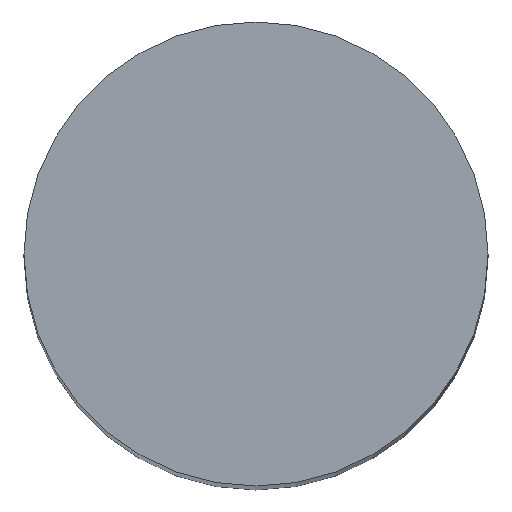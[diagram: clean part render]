
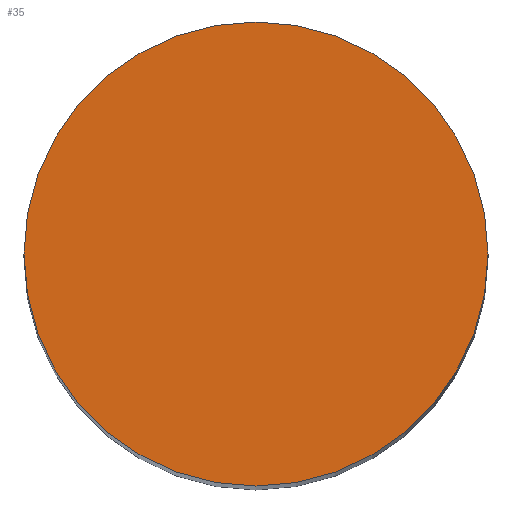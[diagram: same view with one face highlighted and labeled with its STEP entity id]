
A CAD part, top view. The second image highlights one B-rep face of the part: STEP entity #35.
In plain terms, the highlighted planar face has unit normal (0, 0, 1).
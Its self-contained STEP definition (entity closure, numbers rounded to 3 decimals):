
#13 = DIRECTION ( 'NONE',  ( 0., 0., 1. ) ) ;
#22 = FACE_OUTER_BOUND ( 'NONE', #99, .T. ) ;
#24 = DIRECTION ( 'NONE',  ( 1., 0., 0. ) ) ;
#35 = ADVANCED_FACE ( 'NONE', ( #22 ), #127, .T. ) ;
#56 = VERTEX_POINT ( 'NONE', #67 ) ;
#66 = DIRECTION ( 'NONE',  ( 1., 0., 0. ) ) ;
#67 = CARTESIAN_POINT ( 'NONE',  ( 30.25, 0., 148. ) ) ;
#68 = CARTESIAN_POINT ( 'NONE',  ( -30.25, 0., 148. ) ) ;
#75 = AXIS2_PLACEMENT_3D ( 'NONE', #96, #129, #24 ) ;
#77 = DIRECTION ( 'NONE',  ( 0., 0., 1. ) ) ;
#95 = CARTESIAN_POINT ( 'NONE',  ( 0., 0., 148. ) ) ;
#96 = CARTESIAN_POINT ( 'NONE',  ( 0., 0., 148. ) ) ;
#99 = EDGE_LOOP ( 'NONE', ( #111, #125 ) ) ;
#100 = EDGE_CURVE ( 'NONE', #118, #56, #166, .T. ) ;
#106 = EDGE_CURVE ( 'NONE', #56, #118, #121, .T. ) ;
#111 = ORIENTED_EDGE ( 'NONE', *, *, #100, .T. ) ;
#114 = DIRECTION ( 'NONE',  ( 1., 0., 0. ) ) ;
#118 = VERTEX_POINT ( 'NONE', #68 ) ;
#121 = CIRCLE ( 'NONE', #75, 30.25 ) ;
#125 = ORIENTED_EDGE ( 'NONE', *, *, #106, .T. ) ;
#127 = PLANE ( 'NONE',  #152 ) ;
#129 = DIRECTION ( 'NONE',  ( 0., 0., 1. ) ) ;
#152 = AXIS2_PLACEMENT_3D ( 'NONE', #95, #77, #114 ) ;
#162 = AXIS2_PLACEMENT_3D ( 'NONE', #173, #13, #66 ) ;
#166 = CIRCLE ( 'NONE', #162, 30.25 ) ;
#173 = CARTESIAN_POINT ( 'NONE',  ( 0., 0., 148. ) ) ;
